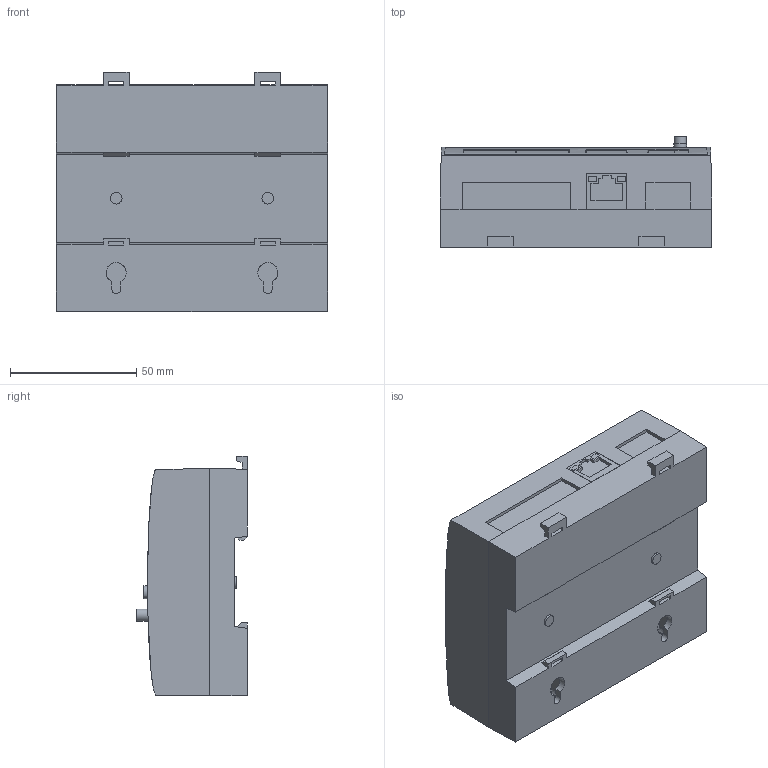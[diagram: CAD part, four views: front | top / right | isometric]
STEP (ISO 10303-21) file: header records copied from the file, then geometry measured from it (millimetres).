
FILE_DESCRIPTION(/* description */ ('STEP AP242','CAx-IF Rec.Pracs.---Representation and Presentation of Product Manufacturing Information (PMI)---4.0---2014-10-13','CAx-IF Rec.Pracs.---3D Tessellated Geometry---0.4---2014-09-14','2;1'),/* implementation_level */ '2;1');
FILE_NAME(/* name */ '6634da4f7859092b1b9c20fa',/* time_stamp */ '2024-05-03T12:36:32Z',/* author */ (''),/* organization */ (''),/* preprocessor_version */ 'ST-DEVELOPER v20',/* originating_system */ ' ',/* authorisation */ ' ');
FILE_SCHEMA (('AP242_MANAGED_MODEL_BASED_3D_ENGINEERING_MIM_LF { 1 0 10303 442 1 1 4 }'));
Length unit declared in the file: metre
Products named in the file (1): XPC
Bounding box: 107.5 x 43.84 x 94.94 mm (x, y, z)
Volume: 349370.4 mm3; surface area: 36499.9 mm2
Topology: 1 solids, 1 shells, 421 faces, 1031 edges, 680 vertices
Faces by surface type: plane 268, cylinder 93, bspline 60
Full cylindrical faces by diameter (mm): 0.544 x7, 0.705 x7, 0.8 x1, 0.866 x7, 0.99 x7, 1.485 x1, 1.8 x1, 2.3 x8, 3 x1, 4.6 x2, 4.8 x1, 5.1 x1, 7.418 x1, 9.9 x1, 10.782 x1
Entity records: 20966 total; most frequent: CARTESIAN_POINT 10902, ORIENTED_EDGE 1960, DIRECTION 1444, EDGE_CURVE 980, VERTEX_POINT 676, LINE 676, VECTOR 676, EDGE_LOOP 540
